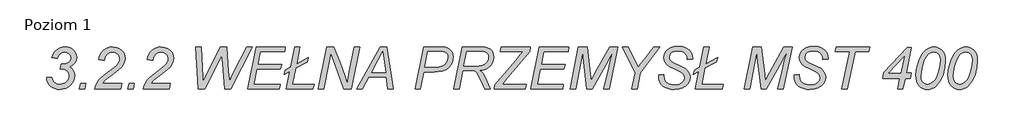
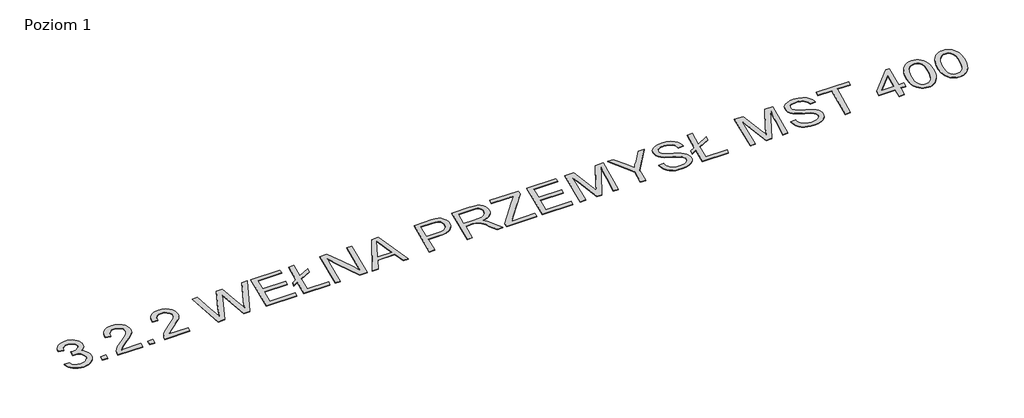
# One storey, part 4 of 9: 1 proxy.
"""IFC4 building model written with IfcOpenShell, lengths in millimetres."""

from ifc_helpers import new_model, si_unit, origin, origin_with_axes, place, context, project, spatial, polyline, outline, extrude, element, save

model = new_model("IFC4")

# Units and contexts
model_context = context("Model", 3, world=origin())
ifc_project = project(units=[si_unit("LENGTHUNIT", "METRE", prefix="MILLI")], contexts=[model_context])

# Site, building, storey
site = spatial("IfcSite", under=ifc_project)
building = spatial("IfcBuilding", under=site)
storey = spatial("IfcBuildingStorey", under=building, Name="Poziom 1", Elevation=0.0)

# Proxy
placement = place(None, origin())
element("IfcBuildingElementProxy", 1, Name="400 mm Arial", ObjectType="400 mm Arial", at=placement, inside=storey, context=model_context, shape_type="SweptSolid", body=[
    extrude(outline(polyline([(-1064.6188022, 3434.5109693), (-1015.6491052, 3434.5109693), (-1006.7542189, 3406.3557846), (-991.1642568, 3387.501973), (-969.2617946, 3376.8496293), (-941.4294083, 3373.298848), (-906.8541242, 3379.2765943), (-891.4674054, 3386.748777), (-877.3479689, 3397.2098329), (-865.5478979, 3409.6017008), (-857.1192757, 3422.8663196), (-852.0621024, 3437.0036894), (-850.376378, 3452.0138102), (-855.2303079, 3476.6301691), (-869.7920977, 3496.536064), (-892.5314443, 3509.6990611), (-921.9180446, 3514.0867268), (-937.3167189, 3514.0867268), (-929.0913401, 3563.9172193), (-915.7968325, 3563.0564238), (-879.559735, 3567.2169352), (-853.2935181, 3579.6984693), (-837.3329357, 3598.2294825), (-832.0127416, 3620.5384314), (-836.5319177, 3641.0540564), (-850.0894461, 3658.0308556), (-870.1985844, 3669.4363954), (-894.3725901, 3673.238242), (-918.6422397, 3669.3527069), (-940.3773249, 3657.6961018), (-957.1867473, 3638.9379342), (-966.6794083, 3613.7477117), (-1015.6491052, 3621.6861587), (-1008.4070657, 3644.3328502), (-998.4451516, 3664.2596672), (-985.7633631, 3681.4666096), (-970.3616999, 3695.9536776), (-952.8319592, 3707.4399169), (-933.7659376, 3715.6443736), (-913.1636353, 3720.5670476), (-891.0250522, 3722.207939), (-868.0675179, 3720.4564593), (-847.3994604, 3715.2020204), (-829.0208796, 3706.4446222), (-812.9317757, 3694.1842647), (-799.8554559, 3679.3714096), (-790.5152274, 3662.9565185), (-784.9110903, 3644.9395914), (-783.0430446, 3625.3206283), (-787.0003126, 3597.3806426), (-798.8721166, 3573.2425033), (-818.8019225, 3552.9062107), (-846.9331961, 3536.3717647), (-826.8957908, 3520.961135), (-812.6926658, 3502.6572761), (-804.2281772, 3481.484099), (-801.406681, 3457.4655147), (-803.9382565, 3431.3905857), (-811.5329831, 3407.1089806), (-824.1908607, 3384.6206994), (-841.9118893, 3363.925742), (-863.1538105, 3346.6022335), (-886.3743657, 3334.2282988), (-911.5735548, 3326.803938), (-938.751378, 3324.3291511), (-964.7904405, 3326.2061634), (-988.1992946, 3331.8372003), (-1008.9779405, 3341.2222619), (-1027.126378, 3354.361348), (-1042.0946545, 3370.6327732), (-1053.3328174, 3389.4148518), (-1060.8408666, 3410.7075838), (-1064.6188022, 3434.5109693)])), origin_with_axes(), (0.0, 0.0, 1.0), 5.0),
    extrude(outline(polyline([(-757.7930446, 3330.4503632), (-746.3157719, 3379.4200602), (-697.3460749, 3379.4200602), (-707.8669083, 3330.4503632), (-757.7930446, 3330.4503632)])), origin_with_axes(), (0.0, 0.0, 1.0), 5.0),
    extrude(outline(polyline([(-611.6491052, 3330.4503632), (-602.5270645, 3362.7062818), (-590.4639727, 3389.2713859), (-574.7066336, 3412.3813528), (-554.5018515, 3434.2718594), (-468.1831961, 3502.8963859), (-415.1008098, 3545.1710071), (-397.430592, 3564.7062818), (-385.3555446, 3583.9068026), (-380.6211696, 3597.392598), (-379.0430446, 3612.0261208), (-383.932841, 3635.6382183), (-398.6022302, 3655.4006473), (-420.3970929, 3668.7788433), (-446.6633098, 3673.238242), (-473.0251706, 3668.7190658), (-495.8721166, 3655.1615374), (-513.9368657, 3631.6092174), (-525.9521355, 3597.1056662), (-574.9218325, 3603.6094541), (-569.6763602, 3629.6963386), (-561.0175948, 3652.8660829), (-548.9455363, 3673.1186871), (-533.4601848, 3690.4541511), (-515.2131145, 3704.3464333), (-494.8558997, 3714.269492), (-472.3885406, 3720.2233272), (-447.8110371, 3722.207939), (-415.1844982, 3718.6810687), (-385.7859424, 3708.1004579), (-361.4565153, 3691.1475696), (-344.0373628, 3668.503867), (-333.5643515, 3642.5963149), (-330.0733477, 3615.8518783), (-331.8427605, 3596.238893), (-337.1509992, 3576.996528), (-345.9980636, 3558.1247832), (-358.3839537, 3539.6236587), (-392.672306, 3508.0611587), (-460.7229689, 3455.8395677), (-515.0009045, 3411.8433556), (-541.8290295, 3379.4200602), (-360.6794083, 3379.4200602), (-370.3394461, 3330.4503632), (-611.6491052, 3330.4503632)])), origin_with_axes(), (0.0, 0.0, 1.0), 5.0),
    extrude(outline(polyline([(-304.8233477, 3330.4503632), (-293.3460749, 3379.4200602), (-244.376378, 3379.4200602), (-254.8972113, 3330.4503632), (-304.8233477, 3330.4503632)])), origin_with_axes(), (0.0, 0.0, 1.0), 5.0),
    extrude(outline(polyline([(-158.6794083, 3330.4503632), (-149.5573675, 3362.7062818), (-137.4942757, 3389.2713859), (-121.7369367, 3412.3813528), (-101.5321545, 3434.2718594), (-15.2134992, 3502.8963859), (37.8688872, 3545.1710071), (55.539105, 3564.7062818), (67.6141523, 3583.9068026), (72.3485273, 3597.392598), (73.9266523, 3612.0261208), (69.0368559, 3635.6382183), (54.3674667, 3655.4006473), (32.572604, 3668.7788433), (6.3063872, 3673.238242), (-20.0554736, 3668.7190658), (-42.9024196, 3655.1615374), (-60.9671687, 3631.6092174), (-72.9824386, 3597.1056662), (-121.9521355, 3603.6094541), (-116.7066632, 3629.6963386), (-108.0478979, 3652.8660829), (-95.9758394, 3673.1186871), (-80.4904878, 3690.4541511), (-62.2434175, 3704.3464333), (-41.8862028, 3714.269492), (-19.4188436, 3720.2233272), (5.1586599, 3722.207939), (37.7851987, 3718.6810687), (67.1837546, 3708.1004579), (91.5131817, 3691.1475696), (108.9323342, 3668.503867), (119.4053455, 3642.5963149), (122.8963493, 3615.8518783), (121.1269364, 3596.238893), (115.8186978, 3576.996528), (106.9716334, 3558.1247832), (94.5857432, 3539.6236587), (60.297391, 3508.0611587), (-7.7532719, 3455.8395677), (-62.0312075, 3411.8433556), (-88.8593325, 3379.4200602), (92.2902887, 3379.4200602), (82.6302508, 3330.4503632), (-158.6794083, 3330.4503632)])), origin_with_axes(), (0.0, 0.0, 1.0), 5.0),
    extrude(outline(polyline([(355.5024099, 3330.4503632), (331.0175614, 3722.207939), (379.9872584, 3722.207939), (391.1775993, 3527.0943026), (395.4815766, 3452.205098), (396.8205917, 3428.1984693), (401.4115008, 3397.7836965), (446.842372, 3497.3490374), (561.6150993, 3722.207939), (618.7145311, 3722.207939), (636.0260842, 3492.5668405), (646.2599857, 3397.7836965), (661.7543039, 3435.3717647), (692.3603645, 3496.392598), (805.9853645, 3722.207939), (860.5024099, 3722.207939), (656.5895311, 3330.4503632), (600.3508948, 3330.4503632), (581.7959705, 3566.7865374), (572.8054402, 3642.6321814), (546.8859326, 3585.6283935), (416.4275993, 3330.4503632), (355.5024099, 3330.4503632)])), origin_with_axes(), (0.0, 0.0, 1.0), 5.0),
    extrude(outline(polyline([(814.593319, 3330.4503632), (894.1690766, 3722.207939), (1169.623622, 3722.207939), (1163.406766, 3679.3594541), (935.2003266, 3679.3594541), (910.3329023, 3556.9352117), (1132.8963493, 3556.9352117), (1120.6539251, 3514.0867268), (901.6293039, 3514.0867268), (873.031766, 3373.298848), (1118.5497584, 3373.298848), (1109.3679402, 3330.4503632), (814.593319, 3330.4503632)])), origin_with_axes(), (0.0, 0.0, 1.0), 5.0),
    extrude(outline(polyline([(1208.7419932, 3493.0450602), (1157.3811978, 3465.1170299), (1169.623622, 3507.9655147), (1217.063016, 3533.7893783), (1255.3205917, 3722.207939), (1305.0554402, 3722.207939), (1272.9190766, 3564.0128632), (1383.8660463, 3624.268545), (1371.623622, 3581.4200602), (1264.6936978, 3523.364189), (1234.1832811, 3373.298848), (1438.9569554, 3373.298848), (1426.7145311, 3330.4503632), (1175.7448342, 3330.4503632), (1208.7419932, 3493.0450602)])), origin_with_axes(), (0.0, 0.0, 1.0), 5.0),
    extrude(outline(polyline([(1475.6842281, 3330.4503632), (1555.2599857, 3722.207939), (1622.593319, 3722.207939), (1681.8925614, 3570.612295), (1724.9323342, 3453.831045), (1746.0696448, 3379.4200602), (1767.6851751, 3490.5583177), (1812.7334705, 3722.207939), (1862.3726751, 3722.207939), (1786.2400993, 3330.4503632), (1713.9332811, 3330.4503632), (1632.9228645, 3555.5005526), (1593.4219175, 3665.0128632), (1573.8149099, 3568.3168405), (1525.4190766, 3330.4503632), (1475.6842281, 3330.4503632)])), origin_with_axes(), (0.0, 0.0, 1.0), 5.0),
    extrude(outline(polyline([(1834.6359326, 3330.4503632), (2053.8518417, 3722.207939), (2115.8291145, 3722.207939), (2177.5194554, 3330.4503632), (2128.0715387, 3330.4503632), (2112.3859326, 3440.6321814), (1949.313016, 3440.6321814), (1889.5355539, 3330.4503632), (1834.6359326, 3330.4503632)]), holes=[polyline([(1974.6586599, 3483.4806662), (2106.3603645, 3483.4806662), (2092.5876372, 3581.4200602), (2078.623622, 3679.3594541), (2035.4882054, 3599.7836965), (1974.6586599, 3483.4806662)])]), origin_with_axes(), (0.0, 0.0, 1.0), 5.0),
    extrude(outline(polyline([(2381.623622, 3330.4503632), (2460.8168039, 3722.207939), (2624.0810084, 3722.207939), (2661.1669459, 3719.7690185), (2687.6842281, 3712.4522571), (2707.0760368, 3699.2294825), (2722.7855539, 3679.0725223), (2733.1868323, 3654.0138102), (2736.6539251, 3626.0857799), (2734.1791381, 3601.5889759), (2726.7547773, 3576.6856852), (2715.5524809, 3553.7789617), (2701.7438872, 3535.2718594), (2686.5365008, 3520.9730905), (2671.1378266, 3510.691367), (2637.9493796, 3498.4011208), (2600.0504686, 3491.801689), (2561.7211599, 3489.6018783), (2463.5904781, 3489.6018783), (2431.4541145, 3330.4503632), (2381.623622, 3330.4503632)]), holes=[polyline([(2472.2940766, 3532.4503632), (2560.2865008, 3532.4503632), (2604.6533332, 3535.1762155), (2635.4148152, 3543.3537723), (2656.9227461, 3557.1145441), (2673.5289251, 3576.5900412), (2684.1454023, 3599.6043641), (2687.6842281, 3623.9816132), (2685.7713493, 3641.5322761), (2680.0327129, 3655.5441132), (2670.8030728, 3666.172546), (2658.4171826, 3673.5729958), (2638.0450235, 3677.9128395), (2604.8565766, 3679.3594541), (2502.0393417, 3679.3594541), (2472.2940766, 3532.4503632)])]), origin_with_axes(), (0.0, 0.0, 1.0), 5.0),
    extrude(outline(polyline([(2742.7751372, 3330.4503632), (2822.3508948, 3722.207939), (2987.8149099, 3722.207939), (3030.8666381, 3720.1276833), (3062.0824289, 3713.8869162), (3084.6543985, 3701.9075128), (3101.7746637, 3682.611348), (3112.5704734, 3656.6679295), (3116.1690766, 3624.7467647), (3114.2322868, 3601.349866), (3108.4219175, 3580.033223), (3098.7379686, 3560.7968357), (3085.1804402, 3543.6407041), (3067.3010013, 3528.9414262), (3044.6513209, 3517.0755999), (3017.231399, 3508.0432254), (2985.0412357, 3501.8443026), (3003.7635368, 3487.5216227), (3017.2732432, 3473.4380526), (3036.4259421, 3438.2171719), (3051.4181296, 3401.800742), (3085.467372, 3330.4503632), (3032.0024099, 3330.4503632), (2997.7618796, 3402.1833177), (2982.6262262, 3438.5758367), (2965.529872, 3469.707939), (2951.9364771, 3486.0989191), (2937.7453076, 3495.6752685), (2918.7480302, 3500.3020441), (2890.7363114, 3501.8443026), (2827.3243796, 3501.8443026), (2792.5099857, 3330.4503632), (2742.7751372, 3330.4503632)]), holes=[polyline([(2836.0279781, 3544.6927874), (2911.1084705, 3544.6927874), (2978.9200235, 3544.6927874), (3005.879659, 3549.6662723), (3027.4593228, 3558.4655147), (3044.2328787, 3571.0307373), (3056.7741902, 3587.3021624), (3064.5930823, 3606.108152), (3067.1993796, 3626.2770677), (3065.2147679, 3642.7397808), (3059.2609326, 3656.9309503), (3050.0791145, 3667.8941369), (3038.4105539, 3674.6729011), (3020.9794459, 3678.1878158), (2994.5099857, 3679.3594541), (2863.3821448, 3679.3594541), (2836.0279781, 3544.6927874)])]), origin_with_axes(), (0.0, 0.0, 1.0), 5.0),
    extrude(outline(polyline([(3122.2902887, 3330.4503632), (3128.4115008, 3367.1776359), (3325.2467281, 3601.5052874), (3366.1823342, 3649.9967647), (3390.7628266, 3679.3594541), (3355.6615008, 3679.3594541), (3342.6539251, 3679.3594541), (3326.968319, 3679.3594541), (3311.5696448, 3679.3594541), (3178.3376372, 3679.3594541), (3187.6150993, 3722.207939), (3458.9569554, 3722.207939), (3453.8878266, 3681.176689), (3243.375516, 3430.6852117), (3195.1709705, 3373.298848), (3210.0914251, 3373.298848), (3419.7429402, 3373.298848), (3410.4654781, 3330.4503632), (3122.2902887, 3330.4503632)])), origin_with_axes(), (0.0, 0.0, 1.0), 5.0),
    extrude(outline(polyline([(3465.0781675, 3330.4503632), (3544.6539251, 3722.207939), (3820.1084705, 3722.207939), (3813.8916145, 3679.3594541), (3585.6851751, 3679.3594541), (3560.8177508, 3556.9352117), (3783.3811978, 3556.9352117), (3771.1387735, 3514.0867268), (3552.1141523, 3514.0867268), (3523.5166145, 3373.298848), (3769.0346069, 3373.298848), (3759.8527887, 3330.4503632), (3465.0781675, 3330.4503632)])), origin_with_axes(), (0.0, 0.0, 1.0), 5.0),
    extrude(outline(polyline([(3831.6813872, 3330.4503632), (3908.1008948, 3722.207939), (3991.5980539, 3722.207939), (4021.2476751, 3468.9427874), (4028.0383948, 3404.7657041), (4067.9219175, 3482.8111587), (4200.3887735, 3722.207939), (4277.8603645, 3722.207939), (4194.7457811, 3330.4503632), (4144.5327129, 3330.4503632), (4190.5374478, 3518.6776359), (4205.7209232, 3590.6975223), (4231.3774099, 3673.238242), (4204.0710652, 3630.7484219), (4180.686122, 3587.2543405), (4038.4635842, 3330.4503632), (3988.250516, 3330.4503632), (3958.8878266, 3581.611348), (3948.1757054, 3673.238242), (3929.812069, 3578.8376738), (3881.3205917, 3330.4503632), (3831.6813872, 3330.4503632)])), origin_with_axes(), (0.0, 0.0, 1.0), 5.0),
    extrude(outline(polyline([(4407.7448342, 3330.4503632), (4438.1596069, 3480.4200602), (4319.8480539, 3722.207939), (4373.4086599, 3722.207939), (4430.7950235, 3609.1568026), (4467.5222963, 3529.9636208), (4490.6442186, 3565.973564), (4523.4740008, 3604.7571814), (4611.3707811, 3722.207939), (4670.5743796, 3722.207939), (4487.0336599, 3476.4986587), (4457.4796826, 3330.4503632), (4407.7448342, 3330.4503632)])), origin_with_axes(), (0.0, 0.0, 1.0), 5.0),
    extrude(outline(polyline([(4658.7145311, 3458.9958177), (4707.6842281, 3465.1170299), (4707.1103645, 3450.9617268), (4709.6927508, 3428.5093121), (4717.4399099, 3408.017598), (4731.1409042, 3390.7180005), (4751.5847963, 3377.8419352), (4777.6238588, 3369.8437107), (4808.1103645, 3367.1776359), (4849.15357, 3372.3424087), (4865.523628, 3378.7983746), (4879.1259895, 3387.8367268), (4897.4537593, 3409.9543878), (4903.563016, 3434.989189), (4900.358944, 3452.6594068), (4890.7467281, 3468.7514996), (4866.4531675, 3486.3499844), (4819.5876372, 3509.3045299), (4757.9929402, 3539.9105905), (4735.5644364, 3557.987295), (4719.9266523, 3577.5943026), (4710.7448342, 3599.4250318), (4707.6842281, 3624.1729011), (4711.6654071, 3652.770439), (4723.608944, 3678.4986587), (4743.2159516, 3699.9109456), (4770.1875425, 3715.5606852), (4802.8140813, 3725.1370346), (4839.3859326, 3728.3291511), (4881.7801088, 3724.2284172), (4916.9531675, 3711.9262155), (4944.1877792, 3692.7854721), (4962.7666145, 3668.1691132), (4973.4548247, 3641.4366321), (4977.0175614, 3615.9475223), (4977.0175614, 3607.7221435), (4928.0478645, 3603.6094541), (4925.2741902, 3630.676689), (4918.7106249, 3646.4459835), (4909.3494743, 3659.5133367), (4896.5810084, 3670.081992), (4879.795497, 3678.3551927), (4859.8896021, 3683.6992979), (4837.7599857, 3685.4806662), (4801.3674667, 3680.6506473), (4786.5785226, 3674.6131236), (4774.061122, 3666.1605905), (4761.0057243, 3649.0164143), (4756.6539251, 3627.0422193), (4758.4592044, 3613.3651359), (4763.8750425, 3601.2183556), (4774.0013446, 3589.9323708), (4789.938016, 3578.8376738), (4853.5412357, 3548.1359693), (4909.779872, 3518.8689238), (4927.9761315, 3503.2311397), (4941.438016, 3484.6283935), (4949.7590387, 3463.1563291), (4952.5327129, 3438.9105905), (4947.8222489, 3408.4599513), (4933.6908569, 3380.4243215), (4911.2503976, 3356.6448471), (4881.6127319, 3338.9626738), (4845.973409, 3327.9875318), (4805.5279781, 3324.3291511), (4774.6439523, 3326.1583414), (4746.7428218, 3331.6459124), (4721.8245868, 3340.7918641), (4699.889247, 3353.5961965), (4681.9829083, 3371.1588149), (4669.151676, 3394.5796246), (4661.3955503, 3423.8586255), (4658.7145311, 3458.9958177)])), origin_with_axes(), (0.0, 0.0, 1.0), 5.0),
    extrude(outline(polyline([(5034.499569, 3493.0450602), (4983.1387735, 3465.1170299), (4995.3811978, 3507.9655147), (5042.8205917, 3533.7893783), (5081.0781675, 3722.207939), (5130.813016, 3722.207939), (5098.6766523, 3564.0128632), (5209.623622, 3624.268545), (5197.3811978, 3581.4200602), (5090.4512735, 3523.364189), (5059.9408569, 3373.298848), (5264.7145311, 3373.298848), (5252.4721069, 3330.4503632), (5001.5024099, 3330.4503632), (5034.499569, 3493.0450602)])), origin_with_axes(), (0.0, 0.0, 1.0), 5.0),
    extrude(outline(polyline([(5459.9238114, 3330.4503632), (5536.343319, 3722.207939), (5619.8404781, 3722.207939), (5649.4900993, 3468.9427874), (5656.280819, 3404.7657041), (5696.1643417, 3482.8111587), (5828.6311978, 3722.207939), (5906.1027887, 3722.207939), (5822.9882054, 3330.4503632), (5772.7751372, 3330.4503632), (5818.779872, 3518.6776359), (5833.9633474, 3590.6975223), (5859.6198342, 3673.238242), (5832.3134895, 3630.7484219), (5808.9285463, 3587.2543405), (5666.7060084, 3330.4503632), (5616.4929402, 3330.4503632), (5587.1302508, 3581.611348), (5576.4181296, 3673.238242), (5558.0544932, 3578.8376738), (5509.563016, 3330.4503632), (5459.9238114, 3330.4503632)])), origin_with_axes(), (0.0, 0.0, 1.0), 5.0),
    extrude(outline(polyline([(5925.8054402, 3458.9958177), (5974.7751372, 3465.1170299), (5974.2012735, 3450.9617268), (5976.7836599, 3428.5093121), (5984.530819, 3408.017598), (5998.2318133, 3390.7180005), (6018.6757054, 3377.8419352), (6044.7147679, 3369.8437107), (6075.2012735, 3367.1776359), (6116.244479, 3372.3424087), (6132.614537, 3378.7983746), (6146.2168985, 3387.8367268), (6164.5446684, 3409.9543878), (6170.6539251, 3434.989189), (6167.4498531, 3452.6594068), (6157.8376372, 3468.7514996), (6133.5440766, 3486.3499844), (6086.6785463, 3509.3045299), (6025.0838493, 3539.9105905), (6002.6553455, 3557.987295), (5987.0175614, 3577.5943026), (5977.8357432, 3599.4250318), (5974.7751372, 3624.1729011), (5978.7563162, 3652.770439), (5990.6998531, 3678.4986587), (6010.3068607, 3699.9109456), (6037.2784516, 3715.5606852), (6069.9049904, 3725.1370346), (6106.4768417, 3728.3291511), (6148.8710179, 3724.2284172), (6184.0440766, 3711.9262155), (6211.2786883, 3692.7854721), (6229.8575235, 3668.1691132), (6240.5457338, 3641.4366321), (6244.1084705, 3615.9475223), (6244.1084705, 3607.7221435), (6195.1387735, 3603.6094541), (6192.3650993, 3630.676689), (6185.801534, 3646.4459835), (6176.4403834, 3659.5133367), (6163.6719175, 3670.081992), (6146.8864061, 3678.3551927), (6126.9805112, 3683.6992979), (6104.8508948, 3685.4806662), (6068.4583758, 3680.6506473), (6053.6694317, 3674.6131236), (6041.1520311, 3666.1605905), (6028.0966334, 3649.0164143), (6023.7448342, 3627.0422193), (6025.5501135, 3613.3651359), (6030.9659516, 3601.2183556), (6041.0922537, 3589.9323708), (6057.0289251, 3578.8376738), (6120.6321448, 3548.1359693), (6176.8707811, 3518.8689238), (6195.0670406, 3503.2311397), (6208.5289251, 3484.6283935), (6216.8499478, 3463.1563291), (6219.623622, 3438.9105905), (6214.913158, 3408.4599513), (6200.781766, 3380.4243215), (6178.3413067, 3356.6448471), (6148.703641, 3338.9626738), (6113.0643181, 3327.9875318), (6072.6188872, 3324.3291511), (6041.7348614, 3326.1583414), (6013.8337309, 3331.6459124), (5988.9154959, 3340.7918641), (5966.9801561, 3353.5961965), (5949.0738173, 3371.1588149), (5936.2425851, 3394.5796246), (5928.4864594, 3423.8586255), (5925.8054402, 3458.9958177)])), origin_with_axes(), (0.0, 0.0, 1.0), 5.0),
    extrude(outline(polyline([(6372.6539251, 3330.4503632), (6446.7779781, 3679.3594541), (6311.4418039, 3679.3594541), (6320.719266, 3722.207939), (6632.8054402, 3722.207939), (6623.5279781, 3679.3594541), (6496.6084705, 3679.3594541), (6422.4844175, 3330.4503632), (6372.6539251, 3330.4503632)])), origin_with_axes(), (0.0, 0.0, 1.0), 5.0),
    extrude(outline(polyline([(6892.9569554, 3330.4503632), (6912.7552508, 3428.3897571), (6752.1690766, 3428.3897571), (6764.4115008, 3482.1416511), (6984.7751372, 3716.0867268), (7020.6416145, 3716.0867268), (6972.3414251, 3477.3594541), (7021.5024099, 3477.3594541), (7009.2599857, 3428.3897571), (6962.4900993, 3428.3897571), (6942.6918039, 3330.4503632), (6892.9569554, 3330.4503632)]), holes=[polyline([(6922.6065766, 3477.3594541), (6953.8821448, 3632.206992), (6808.0251372, 3477.3594541), (6922.6065766, 3477.3594541)])]), origin_with_axes(), (0.0, 0.0, 1.0), 5.0),
    extrude(outline(polyline([(7064.3508948, 3458.8045299), (7068.1288304, 3508.6469778), (7079.4626372, 3559.2784882), (7095.4112641, 3605.1875791), (7113.0336599, 3640.8627685), (7131.8396495, 3668.0973802), (7151.3390576, 3688.6847382), (7171.0177982, 3703.6649702), (7190.3617849, 3714.0782041), (7210.6024336, 3720.1755052), (7232.9711599, 3722.207939), (7254.8437333, 3720.1306721), (7274.8392944, 3713.8988717), (7292.9578432, 3703.5125377), (7309.1993796, 3688.97167), (7322.5895311, 3670.5094008), (7332.1539251, 3648.3588623), (7337.8925614, 3622.5200542), (7339.8054402, 3592.9929768), (7334.4972016, 3528.7680715), (7318.5724857, 3465.2126738), (7304.8595359, 3430.0635261), (7288.6837546, 3399.6009314), (7270.0451419, 3373.8248897), (7248.9436978, 3352.7354011), (7231.225658, 3340.3076667), (7212.312069, 3331.4307136), (7192.2029307, 3326.1045417), (7170.8982432, 3324.3291511), (7149.3454793, 3326.4811397), (7129.544195, 3332.9371056), (7111.4943903, 3343.6970488), (7095.1960652, 3358.7609693), (7081.7013031, 3377.9256236), (7072.0621874, 3400.9877685), (7066.2787179, 3427.9474039), (7064.3508948, 3458.8045299)]), holes=[polyline([(7113.3205917, 3451.7268783), (7116.3094648, 3421.9098802), (7125.2760842, 3399.4096435), (7134.3921471, 3387.9861705), (7145.4808664, 3379.8265469), (7158.5422418, 3374.9307728), (7173.5762735, 3373.298848), (7200.2609326, 3379.2048613), (7224.4588493, 3396.9229011), (7239.9770785, 3415.4569032), (7253.4389629, 3437.8704626), (7264.8445027, 3464.1635793), (7274.1936978, 3494.3362533), (7286.6752319, 3552.6671009), (7290.8357432, 3599.2098329), (7286.8067423, 3633.031921), (7274.7197395, 3655.878867), (7256.0333048, 3668.8983982), (7232.2060084, 3673.238242), (7213.6271732, 3670.9427874), (7196.3395311, 3664.0564238), (7180.0561504, 3651.5748897), (7164.4900993, 3632.4939238), (7144.2853171, 3593.1842647), (7126.9020311, 3538.1889996), (7116.7159516, 3489.7453443), (7113.3205917, 3451.7268783)])]), origin_with_axes(), (0.0, 0.0, 1.0), 5.0),
    extrude(outline(polyline([(7364.2902887, 3458.8045299), (7368.0682243, 3508.6469778), (7379.4020311, 3559.2784882), (7395.350658, 3605.1875791), (7412.9730539, 3640.8627685), (7431.7790434, 3668.0973802), (7451.2784516, 3688.6847382), (7470.9571921, 3703.6649702), (7490.3011789, 3714.0782041), (7510.5418275, 3720.1755052), (7532.9105539, 3722.207939), (7554.7831272, 3720.1306721), (7574.7786883, 3713.8988717), (7592.8972371, 3703.5125377), (7609.1387735, 3688.97167), (7622.5289251, 3670.5094008), (7632.093319, 3648.3588623), (7637.8319554, 3622.5200542), (7639.7448342, 3592.9929768), (7634.4365955, 3528.7680715), (7618.5118796, 3465.2126738), (7604.7989298, 3430.0635261), (7588.6231485, 3399.6009314), (7569.9845359, 3373.8248897), (7548.8830917, 3352.7354011), (7531.165052, 3340.3076667), (7512.2514629, 3331.4307136), (7492.1423247, 3326.1045417), (7470.8376372, 3324.3291511), (7449.2848732, 3326.4811397), (7429.4835889, 3332.9371056), (7411.4337842, 3343.6970488), (7395.1354592, 3358.7609693), (7381.6406971, 3377.9256236), (7372.0015813, 3400.9877685), (7366.2181119, 3427.9474039), (7364.2902887, 3458.8045299)]), holes=[polyline([(7413.2599857, 3451.7268783), (7416.2488588, 3421.9098802), (7425.2154781, 3399.4096435), (7434.3315411, 3387.9861705), (7445.4202603, 3379.8265469), (7458.4816358, 3374.9307728), (7473.5156675, 3373.298848), (7500.2003266, 3379.2048613), (7524.3982432, 3396.9229011), (7539.9164724, 3415.4569032), (7553.3783569, 3437.8704626), (7564.7838967, 3464.1635793), (7574.1330917, 3494.3362533), (7586.6146258, 3552.6671009), (7590.7751372, 3599.2098329), (7586.7461362, 3633.031921), (7574.6591334, 3655.878867), (7555.9726987, 3668.8983982), (7532.1454023, 3673.238242), (7513.5665671, 3670.9427874), (7496.2789251, 3664.0564238), (7479.9955444, 3651.5748897), (7464.4294932, 3632.4939238), (7444.224711, 3593.1842647), (7426.8414251, 3538.1889996), (7416.6553455, 3489.7453443), (7413.2599857, 3451.7268783)])]), origin_with_axes(), (0.0, 0.0, 1.0), 5.0),
])

save(model, "model.ifc")
